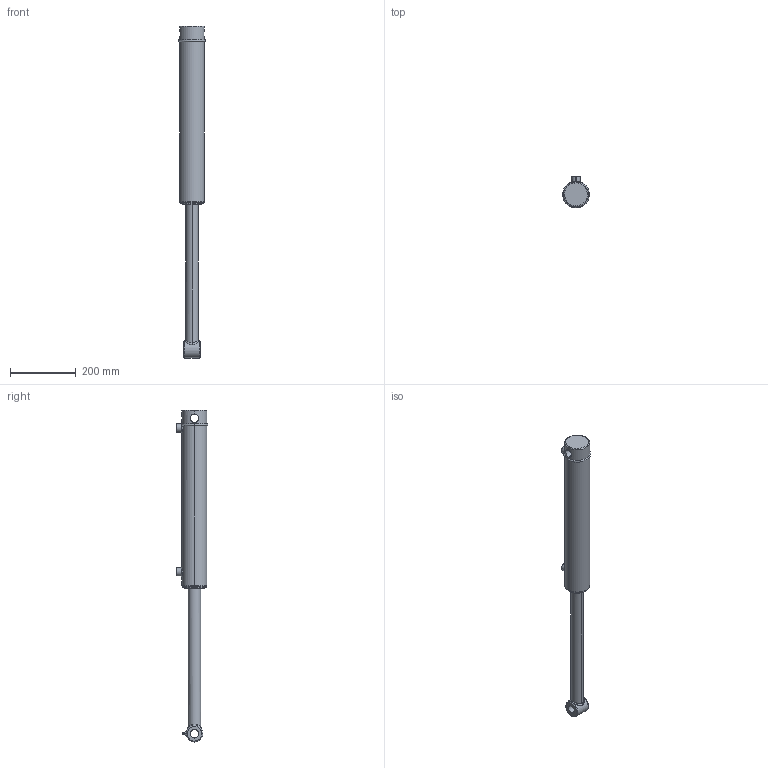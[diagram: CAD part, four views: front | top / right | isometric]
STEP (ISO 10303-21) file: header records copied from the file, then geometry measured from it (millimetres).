
FILE_DESCRIPTION (( 'STEP AP203' ), '1' );
FILE_NAME ('SB-C250150x406 (16) extended.STEP', '2014-11-19T01:14:25', ( '' ), ( '' ), 'SwSTEP 2.0', 'SolidWorks 2014', '' );
FILE_SCHEMA (( 'CONFIG_CONTROL_DESIGN' ));
Length unit declared in the file: millimetre
Products named in the file (7): 18 NPT GREASE NIPPLE; SPARE 16; SB-C250150x406 (16) extended; SB-C250250X406 (16) BODY; 2.5 INCH CIRCLIP; SB-C250150x406 (16) BODY; 16 SPARE
Assembly tree (6 placements, depth 3):
  SB-C250150x406 (16) extended
    SB-C250150x406 (16) BODY
      SB-C250250X406 (16) BODY
      2.5 INCH CIRCLIP
    SPARE 16
      16 SPARE
      18 NPT GREASE NIPPLE
Bounding box: 82.2 x 97.2 x 1013.4 mm (x, y, z)
Volume: 2798570 mm3; surface area: 257774.4 mm2
Topology: 4 solids, 4 shells, 135 faces, 315 edges, 197 vertices
Faces by surface type: cylinder 51, plane 29, cone 22, bspline 19, torus 12, sphere 2
Entity records: 10875 total; most frequent: CARTESIAN_POINT 7141, DIRECTION 640, ORIENTED_EDGE 622, EDGE_CURVE 311, AXIS2_PLACEMENT_3D 271, VERTEX_POINT 197, EDGE_LOOP 160, CIRCLE 144
